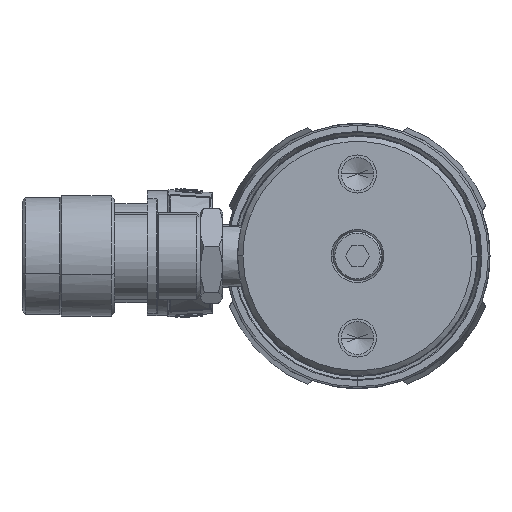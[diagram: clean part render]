
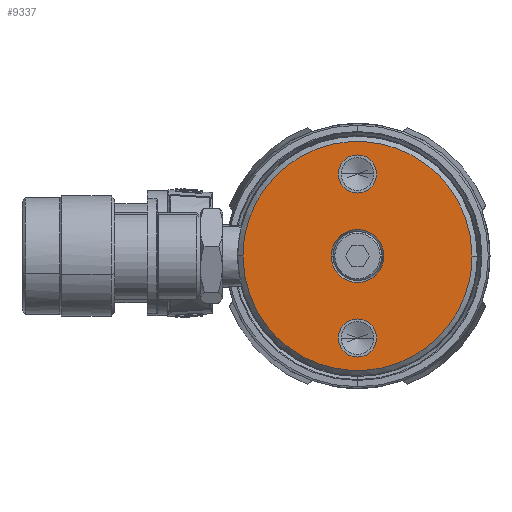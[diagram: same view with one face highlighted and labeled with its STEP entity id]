
A CAD part, left-side view. The second image highlights one B-rep face of the part: STEP entity #9337.
In plain terms, the highlighted planar face has unit normal (-1, 0, 0).
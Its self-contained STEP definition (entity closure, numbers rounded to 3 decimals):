
#1224=CARTESIAN_POINT('',(-151.892,0.,23.876));
#1225=DIRECTION('',(-1.,0.,0.));
#1226=DIRECTION('',(0.,1.,0.));
#1227=AXIS2_PLACEMENT_3D('',#1224,#1225,#1226);
#1229=CARTESIAN_POINT('',(-151.892,0.,23.876));
#1230=DIRECTION('',(-1.,0.,0.));
#1231=DIRECTION('',(0.,-1.,0.));
#1232=AXIS2_PLACEMENT_3D('',#1229,#1230,#1231);
#1234=CARTESIAN_POINT('',(-151.892,0.,-23.876));
#1235=DIRECTION('',(-1.,0.,0.));
#1236=DIRECTION('',(0.,-1.,0.));
#1237=AXIS2_PLACEMENT_3D('',#1234,#1235,#1236);
#1239=CARTESIAN_POINT('',(-151.892,0.,-23.876));
#1240=DIRECTION('',(-1.,0.,0.));
#1241=DIRECTION('',(0.,1.,0.));
#1242=AXIS2_PLACEMENT_3D('',#1239,#1240,#1241);
#1244=CARTESIAN_POINT('',(-151.892,33.337,
0.));
#1245=CARTESIAN_POINT('',(-151.892,33.338,
-1.886));
#1246=CARTESIAN_POINT('',(-151.892,33.023,
-5.629));
#1247=CARTESIAN_POINT('',(-151.892,31.56,
-11.259));
#1248=CARTESIAN_POINT('',(-151.892,29.115,
-16.589));
#1249=CARTESIAN_POINT('',(-151.892,25.761,-21.43));
#1250=CARTESIAN_POINT('',(-151.892,21.626,-25.596));
#1251=CARTESIAN_POINT('',(-151.892,16.832,-28.974));
#1252=CARTESIAN_POINT('',(-151.892,11.517,-31.468));
#1253=CARTESIAN_POINT('',(-151.892,5.845,-32.995));
#1254=CARTESIAN_POINT('',(-151.892,-0.003,-33.509));
#1255=CARTESIAN_POINT('',(-151.892,-5.852,-32.994));
#1256=CARTESIAN_POINT('',(-151.892,-11.523,-31.466));
#1257=CARTESIAN_POINT('',(-151.892,-16.838,-28.971));
#1258=CARTESIAN_POINT('',(-151.892,-21.631,-25.591));
#1259=CARTESIAN_POINT('',(-151.892,-25.766,-21.425));
#1260=CARTESIAN_POINT('',(-151.892,-29.118,
-16.583));
#1261=CARTESIAN_POINT('',(-151.892,-31.562,
-11.254));
#1262=CARTESIAN_POINT('',(-151.892,-33.024,
-5.628));
#1263=CARTESIAN_POINT('',(-151.892,-33.338,
-1.886));
#1264=CARTESIAN_POINT('',(-151.892,-33.337,
0.));
#1266=CARTESIAN_POINT('',(-151.892,-33.337,
0.));
#1267=CARTESIAN_POINT('',(-151.892,-33.338,
1.886));
#1268=CARTESIAN_POINT('',(-151.892,-33.023,
5.629));
#1269=CARTESIAN_POINT('',(-151.892,-31.56,
11.259));
#1270=CARTESIAN_POINT('',(-151.892,-29.115,
16.589));
#1271=CARTESIAN_POINT('',(-151.892,-25.761,21.43));
#1272=CARTESIAN_POINT('',(-151.892,-21.626,25.596));
#1273=CARTESIAN_POINT('',(-151.892,-16.832,28.974));
#1274=CARTESIAN_POINT('',(-151.892,-11.517,31.468));
#1275=CARTESIAN_POINT('',(-151.892,-5.845,32.995));
#1276=CARTESIAN_POINT('',(-151.892,0.003,33.509));
#1277=CARTESIAN_POINT('',(-151.892,5.852,32.994));
#1278=CARTESIAN_POINT('',(-151.892,11.523,31.466));
#1279=CARTESIAN_POINT('',(-151.892,16.838,28.971));
#1280=CARTESIAN_POINT('',(-151.892,21.631,25.591));
#1281=CARTESIAN_POINT('',(-151.892,25.766,21.425));
#1282=CARTESIAN_POINT('',(-151.892,29.118,16.583));
#1283=CARTESIAN_POINT('',(-151.892,31.562,11.254));
#1284=CARTESIAN_POINT('',(-151.892,33.024,5.628));
#1285=CARTESIAN_POINT('',(-151.892,33.338,1.886));
#1286=CARTESIAN_POINT('',(-151.892,33.337,
0.));
#3451=CARTESIAN_POINT('',(-151.892,0.,0.));
#3452=DIRECTION('',(1.,0.,0.));
#3453=DIRECTION('',(0.,1.,0.));
#3454=AXIS2_PLACEMENT_3D('',#3451,#3452,#3453);
#3474=CARTESIAN_POINT('',(-151.892,0.,0.));
#3475=DIRECTION('',(-1.,0.,0.));
#3476=DIRECTION('',(0.,1.,0.));
#3477=AXIS2_PLACEMENT_3D('',#3474,#3475,#3476);
#6894=CARTESIAN_POINT('',(-151.892,5.55,23.876));
#6895=CARTESIAN_POINT('',(-151.892,-5.55,23.876));
#6896=VERTEX_POINT('',#6894);
#6897=VERTEX_POINT('',#6895);
#6898=VERTEX_POINT('',#1244);
#6899=VERTEX_POINT('',#1264);
#6916=CARTESIAN_POINT('',(-151.892,-5.55,-23.876));
#6917=CARTESIAN_POINT('',(-151.892,5.55,-23.876));
#6918=VERTEX_POINT('',#6916);
#6919=VERTEX_POINT('',#6917);
#6920=CARTESIAN_POINT('',(-151.892,7.692,0.));
#6922=VERTEX_POINT('',#6920);
#6924=CARTESIAN_POINT('',(-151.892,-7.692,0.));
#6926=VERTEX_POINT('',#6924);
#9308=CARTESIAN_POINT('',(-151.892,0.,0.));
#9309=DIRECTION('',(1.,0.,0.));
#9310=DIRECTION('',(0.,-1.,0.));
#9311=AXIS2_PLACEMENT_3D('',#9308,#9309,#9310);
#9312=PLANE('',#9311);
#9314=ORIENTED_EDGE('',*,*,#9313,.F.);
#9316=ORIENTED_EDGE('',*,*,#9315,.F.);
#9317=EDGE_LOOP('',(#9314,#9316));
#9318=FACE_OUTER_BOUND('',#9317,.F.);
#9320=ORIENTED_EDGE('',*,*,#9319,.T.);
#9322=ORIENTED_EDGE('',*,*,#9321,.T.);
#9323=EDGE_LOOP('',(#9320,#9322));
#9324=FACE_BOUND('',#9323,.F.);
#9326=ORIENTED_EDGE('',*,*,#9325,.T.);
#9328=ORIENTED_EDGE('',*,*,#9327,.T.);
#9329=EDGE_LOOP('',(#9326,#9328));
#9330=FACE_BOUND('',#9329,.F.);
#9332=ORIENTED_EDGE('',*,*,#9331,.F.);
#9334=ORIENTED_EDGE('',*,*,#9333,.T.);
#9335=EDGE_LOOP('',(#9332,#9334));
#9336=FACE_BOUND('',#9335,.F.);
#9337=ADVANCED_FACE('',(#9318,#9324,#9330,#9336),#9312,.F.);
#1228=CIRCLE('',#1227,5.55);
#1233=CIRCLE('',#1232,5.55);
#1238=CIRCLE('',#1237,5.55);
#1243=CIRCLE('',#1242,5.55);
#1265=B_SPLINE_CURVE_WITH_KNOTS('',3,(#1244,#1245,#1246,#1247,#1248,#1249,#1250,
#1251,#1252,#1253,#1254,#1255,#1256,#1257,#1258,#1259,#1260,#1261,#1262,#1263,
#1264),.UNSPECIFIED.,.F.,.F.,(4,1,1,1,1,1,1,1,1,1,1,1,1,1,1,1,1,1,4),(0.,
0.056,0.111,0.167,0.222,
0.278,0.333,0.389,0.444,0.5,
0.556,0.611,0.667,0.722,
0.778,0.833,0.889,0.944,1.),
.UNSPECIFIED.);
#1287=B_SPLINE_CURVE_WITH_KNOTS('',3,(#1266,#1267,#1268,#1269,#1270,#1271,#1272,
#1273,#1274,#1275,#1276,#1277,#1278,#1279,#1280,#1281,#1282,#1283,#1284,#1285,
#1286),.UNSPECIFIED.,.F.,.F.,(4,1,1,1,1,1,1,1,1,1,1,1,1,1,1,1,1,1,4),(0.,
0.056,0.111,0.167,0.222,
0.278,0.333,0.389,0.444,0.5,
0.556,0.611,0.667,0.722,
0.778,0.833,0.889,0.944,1.),
.UNSPECIFIED.);
#3455=CIRCLE('',#3454,7.692);
#3478=CIRCLE('',#3477,7.692);
#9313=EDGE_CURVE('',#6898,#6899,#1265,.T.);
#9315=EDGE_CURVE('',#6899,#6898,#1287,.T.);
#9319=EDGE_CURVE('',#6896,#6897,#1228,.T.);
#9321=EDGE_CURVE('',#6897,#6896,#1233,.T.);
#9325=EDGE_CURVE('',#6918,#6919,#1238,.T.);
#9327=EDGE_CURVE('',#6919,#6918,#1243,.T.);
#9331=EDGE_CURVE('',#6922,#6926,#3455,.T.);
#9333=EDGE_CURVE('',#6922,#6926,#3478,.T.);
